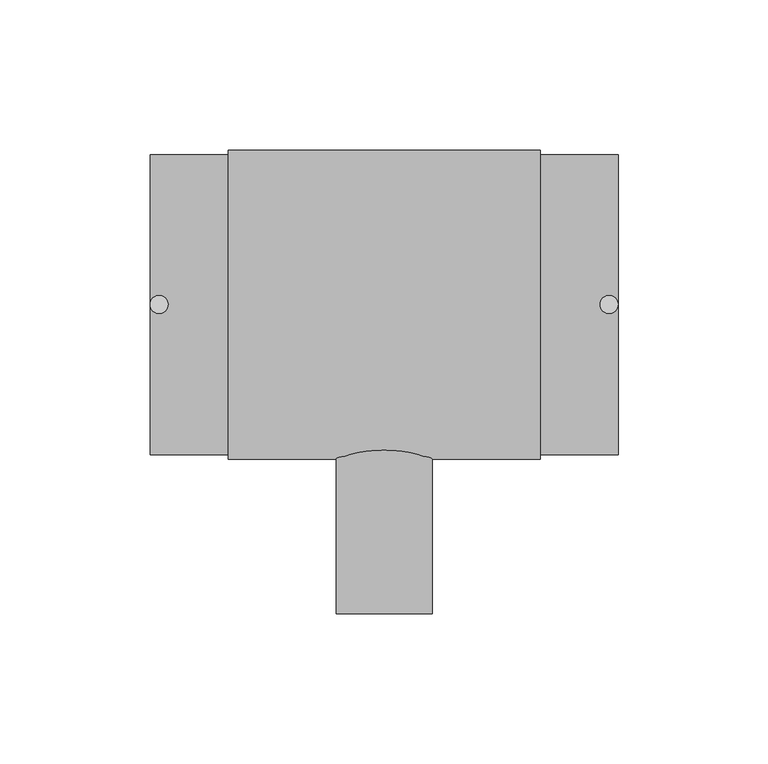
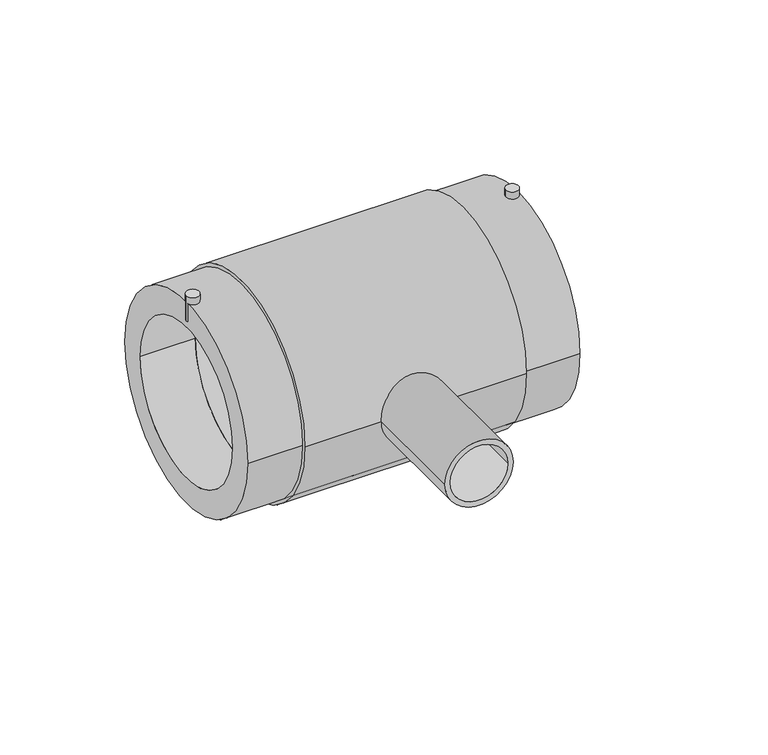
"""IFC4 building model written with IfcOpenShell, lengths in millimetres: pipe fitting geometry, EGB_VASEN_ PPR_Te electrosoldable WXRD300_Te reducida electrosoldable WXRD310 : Te electrosoldable."""

from ifc_helpers import new_model, si_unit, point, frame, frame_2d, origin, origin_2d, place, context, project, spatial, circle_curve, trimmed, segment, composite_curve, outline, extrude, source, transform, mapped, element, save


def pipe_fitting_c3663740(model_context):
    return source(origin(), model_context, "Body", "SweptSolid", [
        extrude(outline(composite_curve([segment(trimmed(circle_curve(frame_2d((-75.0, 0.0)), 3.0), [point((-78.0, 0.0))], [point((-72.0, 0.0))], False, "CARTESIAN"), True, "CONTINUOUS"), segment(trimmed(circle_curve(frame_2d((-75.0, 0.0)), 3.0), [point((-72.0, 0.0))], [point((-78.0, 0.0))], False, "CARTESIAN"), True, "CONTINUOUS")], self_intersect=False)), frame((0.0, 0.0, 40.5), z_axis=(0.0, 0.0, 1.0), x_axis=(1.0, 0.0, 0.0)), (0.0, 0.0, 1.0), 12.5),
        extrude(outline(composite_curve([segment(trimmed(circle_curve(frame_2d((75.0, 0.0)), 3.0), [point((72.0, 0.0))], [point((78.0, 0.0))], False, "CARTESIAN"), True, "CONTINUOUS"), segment(trimmed(circle_curve(frame_2d((75.0, 0.0)), 3.0), [point((78.0, 0.0))], [point((72.0, 0.0))], False, "CARTESIAN"), True, "CONTINUOUS")], self_intersect=False)), frame((0.0, 0.0, 40.5), z_axis=(0.0, 0.0, 1.0), x_axis=(1.0, 0.0, 0.0)), (0.0, 0.0, 1.0), 12.5),
        extrude(outline(composite_curve([segment(trimmed(circle_curve(origin_2d(), 18.5), [point((0.0, 18.5))], [point((0.0, -18.5))], False, "CARTESIAN"), True, "CONTINUOUS"), segment(trimmed(circle_curve(origin_2d(), 18.5), [point((0.0, -18.5))], [point((0.0, 18.5))], False, "CARTESIAN"), True, "CONTINUOUS")], self_intersect=False)), frame((0.0, -41.2, 0.0), z_axis=(0.0, 1.0, 0.0), x_axis=(0.0, 0.0, 1.0)), (0.0, 0.0, 1.0), 41.2),
        extrude(outline(composite_curve([segment(trimmed(circle_curve(origin_2d(), 16.0), [point((0.0, -16.0))], [point((0.0, 16.0))], False, "CARTESIAN"), True, "CONTINUOUS"), segment(trimmed(circle_curve(origin_2d(), 16.0), [point((0.0, 16.0))], [point((0.0, -16.0))], False, "CARTESIAN"), True, "CONTINUOUS")], self_intersect=False), holes=[composite_curve([segment(trimmed(circle_curve(origin_2d(), 13.5), [point((0.0, -13.5))], [point((0.0, 13.5))], True, "CARTESIAN"), True, "CONTINUOUS"), segment(trimmed(circle_curve(origin_2d(), 13.5), [point((0.0, 13.5))], [point((0.0, -13.5))], True, "CARTESIAN"), True, "CONTINUOUS")], self_intersect=False)]), frame((0.0, -103.0, 0.0), z_axis=(0.0, 1.0, 0.0), x_axis=(0.0, 0.0, 1.0)), (0.0, 0.0, 1.0), 61.8),
        extrude(outline(composite_curve([segment(trimmed(circle_curve(origin_2d(), 51.5), [point((-51.5, 0.0))], [point((51.5, 0.0))], False, "CARTESIAN"), True, "CONTINUOUS"), segment(trimmed(circle_curve(origin_2d(), 51.5), [point((51.5, 0.0))], [point((-51.5, 0.0))], False, "CARTESIAN"), True, "CONTINUOUS")], self_intersect=False), holes=[composite_curve([segment(trimmed(circle_curve(origin_2d(), 37.5), [point((-37.5, 0.0))], [point((37.5, 0.0))], True, "CARTESIAN"), True, "CONTINUOUS"), segment(trimmed(circle_curve(origin_2d(), 37.5), [point((37.5, 0.0))], [point((-37.5, 0.0))], True, "CARTESIAN"), True, "CONTINUOUS")], self_intersect=False)]), frame((-52.0, 0.0, 0.0), z_axis=(1.0, 0.0, 0.0), x_axis=(0.0, 1.0, 0.0)), (0.0, 0.0, 1.0), 104.0),
        extrude(outline(composite_curve([segment(trimmed(circle_curve(origin_2d(), 50.0), [point((-50.0, 0.0))], [point((50.0, 0.0))], False, "CARTESIAN"), True, "CONTINUOUS"), segment(trimmed(circle_curve(origin_2d(), 50.0), [point((50.0, 0.0))], [point((-50.0, 0.0))], False, "CARTESIAN"), True, "CONTINUOUS")], self_intersect=False), holes=[composite_curve([segment(trimmed(circle_curve(origin_2d(), 37.5), [point((-37.5, 0.0))], [point((37.5, 0.0))], True, "CARTESIAN"), True, "CONTINUOUS"), segment(trimmed(circle_curve(origin_2d(), 37.5), [point((37.5, 0.0))], [point((-37.5, 0.0))], True, "CARTESIAN"), True, "CONTINUOUS")], self_intersect=False)]), frame((-78.0, 0.0, 0.0), z_axis=(1.0, 0.0, 0.0), x_axis=(0.0, 1.0, 0.0)), (0.0, 0.0, 1.0), 156.0),
    ])


if __name__ == "__main__":
    model = new_model("IFC4")
    model_context = context("Model", 3, world=origin())
    ifc_project = project(units=[si_unit("LENGTHUNIT", "METRE", prefix="MILLI")], contexts=[model_context])
    site = spatial("IfcSite", under=ifc_project)
    building = spatial("IfcBuilding", under=site)
    placement = place(None, origin())
    pipe_fitting_shape = pipe_fitting_c3663740(model_context)
    element("IfcPipeFitting", 1, ObjectType="EGB_VASEN_ PPR_Te electrosoldable WXRD300_Te reducida electrosoldable WXRD310 : Te electrosoldable", at=placement, inside=building, context=model_context, shape_type="MappedRepresentation", body=[
        mapped(pipe_fitting_shape, transform((0.0, 0.0, 0.0), x_axis=(1.0, 0.0, 0.0), y_axis=(0.0, 1.0, 0.0), z_axis=(0.0, 0.0, 1.0))),
    ])
    save(model, "model.ifc")
